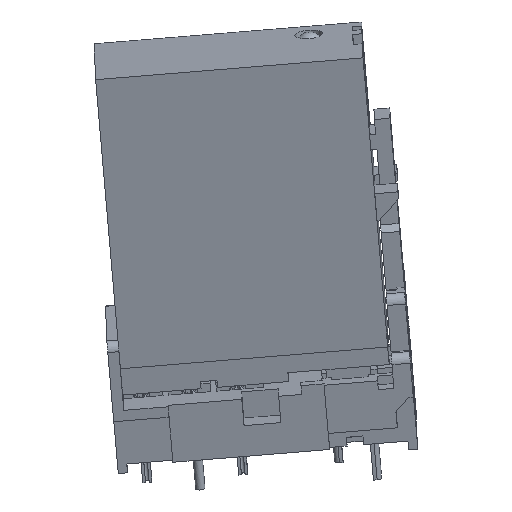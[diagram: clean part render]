
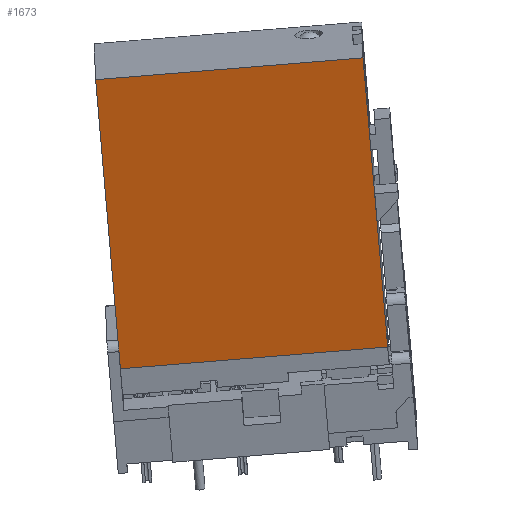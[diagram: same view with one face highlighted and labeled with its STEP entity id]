
A CAD part, front view. The second image highlights one B-rep face of the part: STEP entity #1673.
In plain terms, the highlighted planar face has unit normal (0.013, -0.951, -0.311) as drawn and (0, 1, 0) by its records, which use the part's own axes.
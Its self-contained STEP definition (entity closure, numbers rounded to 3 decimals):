
#1673=ADVANCED_FACE('',(#3065),#3066,.F.);
#3065=FACE_OUTER_BOUND('',#5352,.T.);
#3066=PLANE('',#5353);
#5352=EDGE_LOOP('',(#9104,#9105,#9106,#9107));
#5353=AXIS2_PLACEMENT_3D('',#9108,#9109,#9110);
#9104=ORIENTED_EDGE('',*,*,#17291,.T.);
#9105=ORIENTED_EDGE('',*,*,#17304,.F.);
#9106=ORIENTED_EDGE('',*,*,#17285,.F.);
#9107=ORIENTED_EDGE('',*,*,#17315,.T.);
#9108=CARTESIAN_POINT('',(-14.5,6.25,33.0));
#9109=DIRECTION('',(0.0,-1.0,0.0));
#9110=DIRECTION('',(0.0,0.0,-1.0));
#17285=EDGE_CURVE('',#20790,#20792,#20793,.T.);
#17291=EDGE_CURVE('',#20798,#20802,#20804,.T.);
#17304=EDGE_CURVE('',#20792,#20802,#20827,.T.);
#17315=EDGE_CURVE('',#20790,#20798,#20846,.T.);
#20790=VERTEX_POINT('',#26431);
#20792=VERTEX_POINT('',#26434);
#20793=LINE('',#26435,#26436);
#20798=VERTEX_POINT('',#26442);
#20802=VERTEX_POINT('',#26448);
#20804=LINE('',#26451,#26452);
#20827=LINE('',#26487,#26488);
#20846=LINE('',#26517,#26518);
#26431=CARTESIAN_POINT('',(14.5,6.25,33.0));
#26434=CARTESIAN_POINT('',(-14.5,6.25,33.0));
#26435=CARTESIAN_POINT('',(-14.5,6.25,33.0));
#26436=VECTOR('',#33714,1.0);
#26442=CARTESIAN_POINT('',(14.5,6.25,0.0));
#26448=CARTESIAN_POINT('',(-14.5,6.25,0.0));
#26451=CARTESIAN_POINT('',(-14.5,6.25,0.0));
#26452=VECTOR('',#33722,1.0);
#26487=CARTESIAN_POINT('',(-14.5,6.25,33.0));
#26488=VECTOR('',#33735,1.0);
#26517=CARTESIAN_POINT('',(14.5,6.25,33.0));
#26518=VECTOR('',#33746,1.0);
#33714=DIRECTION('',(-1.0,0.0,0.0));
#33722=DIRECTION('',(-1.0,0.0,0.0));
#33735=DIRECTION('',(0.0,0.0,-1.0));
#33746=DIRECTION('',(0.0,0.0,-1.0));
